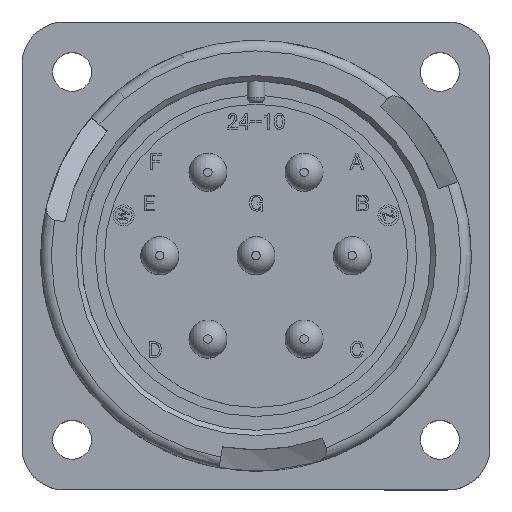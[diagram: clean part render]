
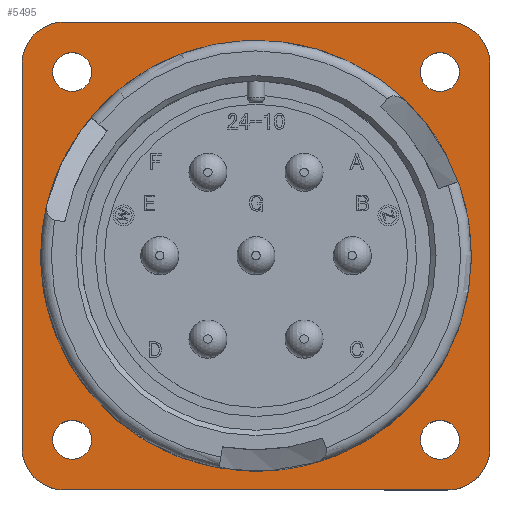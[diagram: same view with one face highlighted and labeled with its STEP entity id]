
A CAD part, top view. The second image highlights one B-rep face of the part: STEP entity #5495.
In plain terms, the highlighted planar face has unit normal (0, 0, 1).
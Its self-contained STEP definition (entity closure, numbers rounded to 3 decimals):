
#23 = CARTESIAN_POINT ( 'NONE',  ( -22.225, 18.225, -20.8 ) ) ;
#56 = DIRECTION ( 'NONE',  ( -1., 0., 0. ) ) ;
#383 = CARTESIAN_POINT ( 'NONE',  ( -18.225, -22.225, -20.8 ) ) ;
#457 = AXIS2_PLACEMENT_3D ( 'NONE', #15362, #13523, #3847 ) ;
#878 = CARTESIAN_POINT ( 'NONE',  ( -17.465, 17.465, -20.8 ) ) ;
#994 = EDGE_CURVE ( 'NONE', #16398, #16398, #21113, .T. ) ;
#1089 = CARTESIAN_POINT ( 'NONE',  ( 22.225, 18.225, -20.8 ) ) ;
#1128 = DIRECTION ( 'NONE',  ( 0., 0., 1. ) ) ;
#1211 = CARTESIAN_POINT ( 'NONE',  ( -18.225, 22.225, -20.8 ) ) ;
#1665 = AXIS2_PLACEMENT_3D ( 'NONE', #7840, #15408, #3894 ) ;
#1819 = CARTESIAN_POINT ( 'NONE',  ( -18.225, 18.225, -20.8 ) ) ;
#2129 = EDGE_CURVE ( 'NONE', #18663, #11447, #21680, .T. ) ;
#2178 = VERTEX_POINT ( 'NONE', #11507 ) ;
#2401 = DIRECTION ( 'NONE',  ( 0., 0., 1. ) ) ;
#2768 = DIRECTION ( 'NONE',  ( 0., 0., 1. ) ) ;
#2803 = CARTESIAN_POINT ( 'NONE',  ( -22.225, 18.225, -20.8 ) ) ;
#3119 = CIRCLE ( 'NONE', #23551, 20.45 ) ;
#3533 = EDGE_CURVE ( 'NONE', #24101, #8236, #5004, .T. ) ;
#3847 = DIRECTION ( 'NONE',  ( -1., 0., 0. ) ) ;
#3894 = DIRECTION ( 'NONE',  ( 1., 0., 0. ) ) ;
#4017 = DIRECTION ( 'NONE',  ( 0., 0., -1. ) ) ;
#4037 = EDGE_CURVE ( 'NONE', #16891, #4576, #6460, .T. ) ;
#4152 = VERTEX_POINT ( 'NONE', #10528 ) ;
#4319 = DIRECTION ( 'NONE',  ( -1., 0., 0. ) ) ;
#4330 = AXIS2_PLACEMENT_3D ( 'NONE', #6420, #2401, #19950 ) ;
#4576 = VERTEX_POINT ( 'NONE', #15574 ) ;
#4660 = CARTESIAN_POINT ( 'NONE',  ( 22.225, 18.225, -20.8 ) ) ;
#4755 = EDGE_LOOP ( 'NONE', ( #13291 ) ) ;
#4840 = AXIS2_PLACEMENT_3D ( 'NONE', #10330, #17907, #22018 ) ;
#5004 = CIRCLE ( 'NONE', #23485, 4. ) ;
#5214 = EDGE_CURVE ( 'NONE', #8829, #8829, #23902, .T. ) ;
#5312 = EDGE_LOOP ( 'NONE', ( #16240 ) ) ;
#5379 = ORIENTED_EDGE ( 'NONE', *, *, #4037, .F. ) ;
#5458 = EDGE_CURVE ( 'NONE', #4152, #11962, #18582, .T. ) ;
#5495 = ADVANCED_FACE ( 'NONE', ( #17429, #18335, #15882, #7206, #8350, #21361 ), #19860, .F. ) ;
#5618 = CARTESIAN_POINT ( 'NONE',  ( -20.45, 0., -20.8 ) ) ;
#6395 = DIRECTION ( 'NONE',  ( 0., -1., 0. ) ) ;
#6420 = CARTESIAN_POINT ( 'NONE',  ( -17.465, -17.465, -20.8 ) ) ;
#6460 = CIRCLE ( 'NONE', #4840, 4. ) ;
#6684 = CARTESIAN_POINT ( 'NONE',  ( 22.225, -18.225, -20.8 ) ) ;
#7206 = FACE_BOUND ( 'NONE', #4755, .T. ) ;
#7450 = ORIENTED_EDGE ( 'NONE', *, *, #5458, .F. ) ;
#7534 = VERTEX_POINT ( 'NONE', #5618 ) ;
#7658 = ORIENTED_EDGE ( 'NONE', *, *, #2129, .F. ) ;
#7840 = CARTESIAN_POINT ( 'NONE',  ( 17.465, 17.465, -20.8 ) ) ;
#8136 = EDGE_CURVE ( 'NONE', #20624, #20624, #14815, .T. ) ;
#8236 = VERTEX_POINT ( 'NONE', #24750 ) ;
#8350 = FACE_BOUND ( 'NONE', #5312, .T. ) ;
#8829 = VERTEX_POINT ( 'NONE', #16920 ) ;
#9238 = EDGE_LOOP ( 'NONE', ( #23981 ) ) ;
#9550 = DIRECTION ( 'NONE',  ( 0., 0., -1. ) ) ;
#9665 = LINE ( 'NONE', #2803, #22716 ) ;
#9783 = DIRECTION ( 'NONE',  ( 1., 0., 0. ) ) ;
#9892 = EDGE_CURVE ( 'NONE', #2178, #2178, #14435, .T. ) ;
#10263 = CARTESIAN_POINT ( 'NONE',  ( 0., 0., -20.8 ) ) ;
#10330 = CARTESIAN_POINT ( 'NONE',  ( 18.225, -18.225, -20.8 ) ) ;
#10408 = DIRECTION ( 'NONE',  ( -1., 0., 0. ) ) ;
#10528 = CARTESIAN_POINT ( 'NONE',  ( 18.225, 22.225, -20.8 ) ) ;
#10941 = EDGE_CURVE ( 'NONE', #7534, #7534, #3119, .T. ) ;
#11224 = VECTOR ( 'NONE', #6395, 1000. ) ;
#11447 = VERTEX_POINT ( 'NONE', #1211 ) ;
#11507 = CARTESIAN_POINT ( 'NONE',  ( 19.315, 17.465, -20.8 ) ) ;
#11962 = VERTEX_POINT ( 'NONE', #1089 ) ;
#12123 = DIRECTION ( 'NONE',  ( -1., 0., 0. ) ) ;
#12191 = CARTESIAN_POINT ( 'NONE',  ( 18.225, -22.225, -20.8 ) ) ;
#12379 = ORIENTED_EDGE ( 'NONE', *, *, #14986, .F. ) ;
#12828 = CARTESIAN_POINT ( 'NONE',  ( 18.225, 22.225, -20.8 ) ) ;
#13291 = ORIENTED_EDGE ( 'NONE', *, *, #9892, .F. ) ;
#13320 = ORIENTED_EDGE ( 'NONE', *, *, #3533, .F. ) ;
#13523 = DIRECTION ( 'NONE',  ( 0., 0., -1. ) ) ;
#14045 = DIRECTION ( 'NONE',  ( 0., 0., 1. ) ) ;
#14252 = LINE ( 'NONE', #4660, #11224 ) ;
#14435 = CIRCLE ( 'NONE', #1665, 1.85 ) ;
#14477 = ORIENTED_EDGE ( 'NONE', *, *, #5214, .F. ) ;
#14800 = ORIENTED_EDGE ( 'NONE', *, *, #8136, .F. ) ;
#14815 = CIRCLE ( 'NONE', #22208, 1.85 ) ;
#14986 = EDGE_CURVE ( 'NONE', #8236, #18663, #9665, .T. ) ;
#15362 = CARTESIAN_POINT ( 'NONE',  ( 18.225, 18.225, -20.8 ) ) ;
#15408 = DIRECTION ( 'NONE',  ( 0., 0., 1. ) ) ;
#15452 = DIRECTION ( 'NONE',  ( 0., 0., -1. ) ) ;
#15574 = CARTESIAN_POINT ( 'NONE',  ( 18.225, -22.225, -20.8 ) ) ;
#15882 = FACE_BOUND ( 'NONE', #22305, .T. ) ;
#15896 = EDGE_LOOP ( 'NONE', ( #14800 ) ) ;
#16240 = ORIENTED_EDGE ( 'NONE', *, *, #10941, .F. ) ;
#16398 = VERTEX_POINT ( 'NONE', #22645 ) ;
#16442 = ORIENTED_EDGE ( 'NONE', *, *, #17005, .F. ) ;
#16774 = AXIS2_PLACEMENT_3D ( 'NONE', #23206, #15452, #56 ) ;
#16891 = VERTEX_POINT ( 'NONE', #6684 ) ;
#16920 = CARTESIAN_POINT ( 'NONE',  ( -19.315, 17.465, -20.8 ) ) ;
#17005 = EDGE_CURVE ( 'NONE', #11447, #4152, #21326, .T. ) ;
#17171 = CARTESIAN_POINT ( 'NONE',  ( 15.615, -17.465, -20.8 ) ) ;
#17429 = FACE_BOUND ( 'NONE', #9238, .T. ) ;
#17907 = DIRECTION ( 'NONE',  ( 0., 0., -1. ) ) ;
#18335 = FACE_BOUND ( 'NONE', #15896, .T. ) ;
#18572 = DIRECTION ( 'NONE',  ( 1., 0., 0. ) ) ;
#18582 = CIRCLE ( 'NONE', #457, 4. ) ;
#18663 = VERTEX_POINT ( 'NONE', #23 ) ;
#18708 = EDGE_CURVE ( 'NONE', #4576, #24101, #22971, .T. ) ;
#19014 = ORIENTED_EDGE ( 'NONE', *, *, #21750, .F. ) ;
#19860 = PLANE ( 'NONE',  #16774 ) ;
#19889 = VECTOR ( 'NONE', #12123, 1000. ) ;
#19950 = DIRECTION ( 'NONE',  ( 1., 0., 0. ) ) ;
#20234 = EDGE_LOOP ( 'NONE', ( #7450, #16442, #7658, #12379, #13320, #22819, #5379, #19014 ) ) ;
#20624 = VERTEX_POINT ( 'NONE', #17171 ) ;
#21113 = CIRCLE ( 'NONE', #4330, 1.85 ) ;
#21326 = LINE ( 'NONE', #12828, #23767 ) ;
#21361 = FACE_OUTER_BOUND ( 'NONE', #20234, .T. ) ;
#21680 = CIRCLE ( 'NONE', #21968, 4. ) ;
#21750 = EDGE_CURVE ( 'NONE', #11962, #16891, #14252, .T. ) ;
#21968 = AXIS2_PLACEMENT_3D ( 'NONE', #1819, #4017, #9783 ) ;
#22018 = DIRECTION ( 'NONE',  ( -1., 0., 0. ) ) ;
#22208 = AXIS2_PLACEMENT_3D ( 'NONE', #24349, #1128, #24592 ) ;
#22305 = EDGE_LOOP ( 'NONE', ( #14477 ) ) ;
#22645 = CARTESIAN_POINT ( 'NONE',  ( -15.615, -17.465, -20.8 ) ) ;
#22716 = VECTOR ( 'NONE', #24379, 1000. ) ;
#22819 = ORIENTED_EDGE ( 'NONE', *, *, #18708, .F. ) ;
#22971 = LINE ( 'NONE', #12191, #19889 ) ;
#22993 = AXIS2_PLACEMENT_3D ( 'NONE', #878, #2768, #10408 ) ;
#23124 = DIRECTION ( 'NONE',  ( -1., 0., 0. ) ) ;
#23206 = CARTESIAN_POINT ( 'NONE',  ( 18.225, 18.225, -20.8 ) ) ;
#23485 = AXIS2_PLACEMENT_3D ( 'NONE', #24670, #9550, #23124 ) ;
#23551 = AXIS2_PLACEMENT_3D ( 'NONE', #10263, #14045, #4319 ) ;
#23767 = VECTOR ( 'NONE', #18572, 1000. ) ;
#23902 = CIRCLE ( 'NONE', #22993, 1.85 ) ;
#23981 = ORIENTED_EDGE ( 'NONE', *, *, #994, .F. ) ;
#24101 = VERTEX_POINT ( 'NONE', #383 ) ;
#24349 = CARTESIAN_POINT ( 'NONE',  ( 17.465, -17.465, -20.8 ) ) ;
#24379 = DIRECTION ( 'NONE',  ( 0., 1., 0. ) ) ;
#24592 = DIRECTION ( 'NONE',  ( -1., 0., 0. ) ) ;
#24670 = CARTESIAN_POINT ( 'NONE',  ( -18.225, -18.225, -20.8 ) ) ;
#24750 = CARTESIAN_POINT ( 'NONE',  ( -22.225, -18.225, -20.8 ) ) ;
